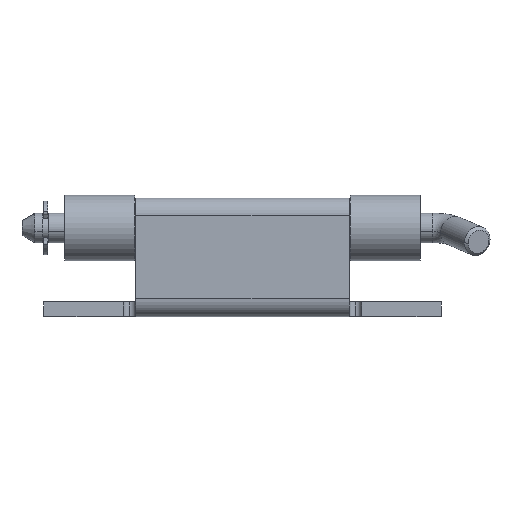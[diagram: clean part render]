
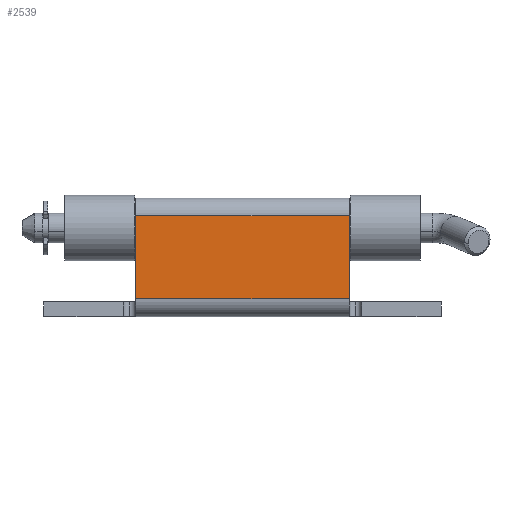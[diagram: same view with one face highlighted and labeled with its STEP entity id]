
A CAD part, front view. The second image highlights one B-rep face of the part: STEP entity #2539.
In plain terms, the highlighted planar face has unit normal (0, -1, 0).
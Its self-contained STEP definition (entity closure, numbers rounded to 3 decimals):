
#10 = EDGE_CURVE ( 'NONE', #2522, #2543, #300, .T. ) ;
#11 = ORIENTED_EDGE ( 'NONE', *, *, #2533, .T. ) ;
#13 = ORIENTED_EDGE ( 'NONE', *, *, #10, .F. ) ;
#292 = DIRECTION ( 'NONE',  ( -1., 0., 0. ) ) ;
#293 = VECTOR ( 'NONE', #292, 1000. ) ;
#294 = CARTESIAN_POINT ( 'NONE',  ( 15.5, -17., 3. ) ) ;
#300 = LINE ( 'NONE', #294, #293 ) ;
#921 = CARTESIAN_POINT ( 'NONE',  ( 51.5, -17., 3. ) ) ;
#935 = DIRECTION ( 'NONE',  ( -1., 0., 0. ) ) ;
#936 = VECTOR ( 'NONE', #935, 1000. ) ;
#937 = CARTESIAN_POINT ( 'NONE',  ( 51.5, -17., 17. ) ) ;
#938 = LINE ( 'NONE', #937, #936 ) ;
#940 = CARTESIAN_POINT ( 'NONE',  ( 15.5, -17., 3. ) ) ;
#941 = CARTESIAN_POINT ( 'NONE',  ( 51.5, -17., 17. ) ) ;
#942 = DIRECTION ( 'NONE',  ( 0., 0., -1. ) ) ;
#943 = VECTOR ( 'NONE', #942, 1000. ) ;
#944 = CARTESIAN_POINT ( 'NONE',  ( 15.5, -17., 2.5 ) ) ;
#945 = DIRECTION ( 'NONE',  ( 0., 0., 1. ) ) ;
#946 = DIRECTION ( 'NONE',  ( 0., 1., 0. ) ) ;
#947 = CARTESIAN_POINT ( 'NONE',  ( 51.5, -17., 2.5 ) ) ;
#948 = AXIS2_PLACEMENT_3D ( 'NONE', #947, #946, #945 ) ;
#949 = PLANE ( 'NONE',  #948 ) ;
#950 = LINE ( 'NONE', #944, #943 ) ;
#951 = FACE_OUTER_BOUND ( 'NONE', #2532, .T. ) ;
#960 = DIRECTION ( 'NONE',  ( 0., 0., 1. ) ) ;
#961 = VECTOR ( 'NONE', #960, 1000. ) ;
#962 = CARTESIAN_POINT ( 'NONE',  ( 51.5, -17., 2.5 ) ) ;
#963 = LINE ( 'NONE', #962, #961 ) ;
#975 = CARTESIAN_POINT ( 'NONE',  ( 15.5, -17., 17. ) ) ;
#2522 = VERTEX_POINT ( 'NONE', #921 ) ;
#2532 = EDGE_LOOP ( 'NONE', ( #2535, #2541, #13, #11 ) ) ;
#2533 = EDGE_CURVE ( 'NONE', #2522, #2542, #963, .T. ) ;
#2535 = ORIENTED_EDGE ( 'NONE', *, *, #2546, .T. ) ;
#2539 = ADVANCED_FACE ( 'NONE', ( #951 ), #949, .F. ) ;
#2540 = EDGE_CURVE ( 'NONE', #2562, #2543, #950, .T. ) ;
#2541 = ORIENTED_EDGE ( 'NONE', *, *, #2540, .T. ) ;
#2542 = VERTEX_POINT ( 'NONE', #941 ) ;
#2543 = VERTEX_POINT ( 'NONE', #940 ) ;
#2546 = EDGE_CURVE ( 'NONE', #2542, #2562, #938, .T. ) ;
#2562 = VERTEX_POINT ( 'NONE', #975 ) ;
